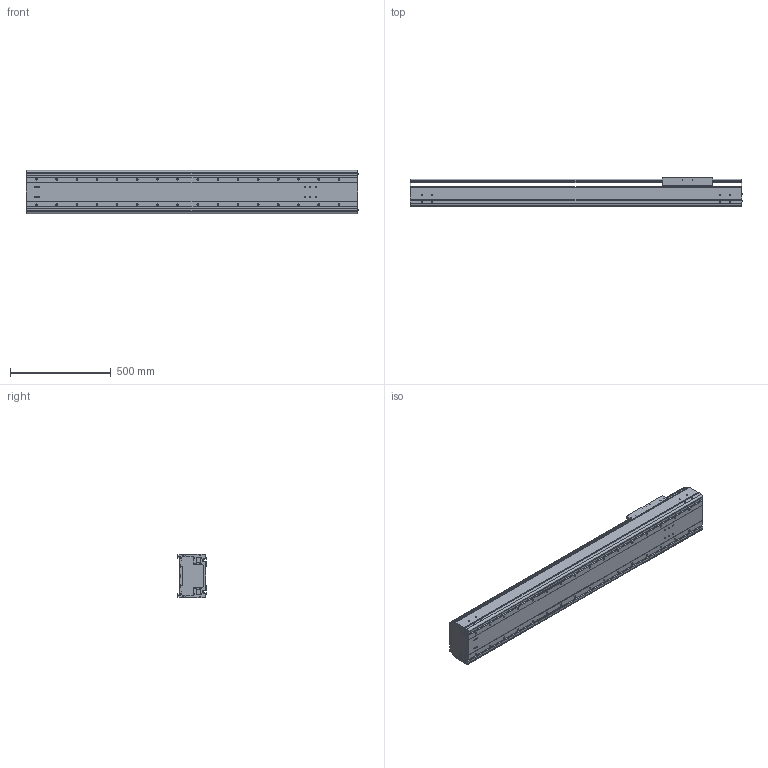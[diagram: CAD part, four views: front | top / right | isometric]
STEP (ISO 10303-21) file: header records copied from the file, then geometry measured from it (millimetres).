
FILE_DESCRIPTION((''),'2;1');
FILE_NAME('BE60G-ST-M_B-C0_IGS_PRT','2017-06-18T',(' '),(''),'PRO/ENGINEER BY PARAMETRIC TECHNOLOGY CORPORATION, 2015030','PRO/ENGINEER BY PARAMETRIC TECHNOLOGY CORPORATION, 2015030','');
FILE_SCHEMA(('CONFIG_CONTROL_DESIGN'));
Length unit declared in the file: millimetre
Products named in the file (1): BE60G-ST-M_B-C0_IGS_PRT
Bounding box: 1647.4 x 140 x 214 mm (x, y, z)
Volume: 13003553 mm3; surface area: 3470927.8 mm2
Topology: 2 solids, 152 shells, 1626 faces, 4550 edges, 2989 vertices
Faces by surface type: cylinder 840, plane 622, cone 116, sphere 24, torus 24
Entity records: 54406 total; most frequent: CARTESIAN_POINT 12410, DIRECTION 8816, ORIENTED_EDGE 8280, EDGE_CURVE 4436, AXIS2_PLACEMENT_3D 3293, VERTEX_POINT 2988, VECTOR 2230, LINE 2230
